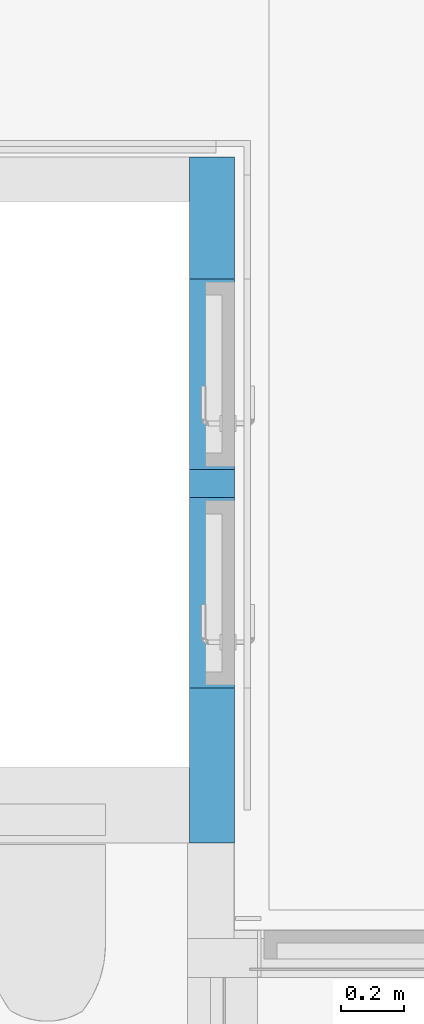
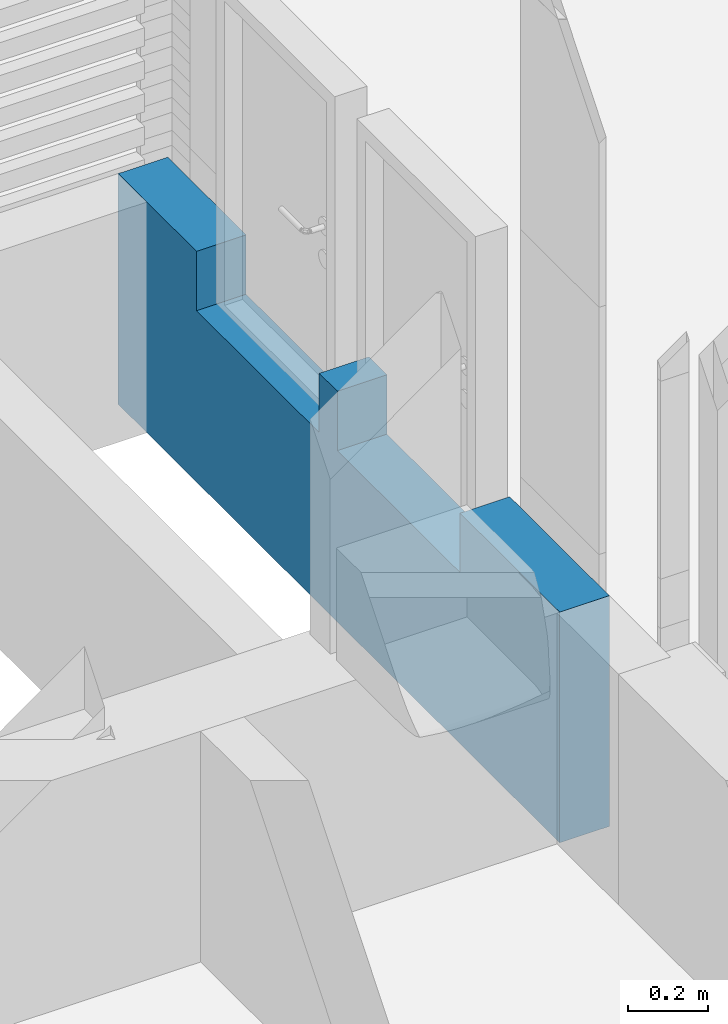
# One storey, part 16 of 26: 1 wall, 2 openings.
"""IFC2X3 building model written with IfcOpenShell, lengths in millimetres."""

from ifc_helpers import new_model, entity, si_unit, converted_unit, derived_unit, direction, frame, frame_2d, origin, origin_with_axes, place, context, subcontext, project, spatial, rectangle, extrude, clip, halfspace, material, layer, layer_set, layer_usage, type_object, element, save


model = new_model("IFC2X3")

# Units and contexts
model_context = context("Model", 3, precision=0.01, world=frame((0.0, 4.29681676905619e-09, 0.0)), true_north=direction((4.01073788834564e-13, 1.0)))
plan_context = context("Plan", 3, precision=0.01, world=frame((0.0, 4.29681676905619e-09, 0.0)), true_north=direction((4.01073788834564e-13, 1.0)))
body_context = subcontext(model_context, "Body", "Model", "MODEL_VIEW")
ifc_project = project(units=[converted_unit("PLANEANGLEUNIT", "DEGREE", entity("IfcPositiveLengthMeasure", 0.0174532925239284), si_unit("PLANEANGLEUNIT", "RADIAN"), dimensions=[0, 0, 0, 0, 0, 0, 0]), si_unit("AREAUNIT", "SQUARE_METRE"), si_unit("LENGTHUNIT", "METRE", prefix="MILLI"), si_unit("MASSUNIT", "GRAM", prefix="KILO"), si_unit("POWERUNIT", "WATT"), si_unit("PRESSUREUNIT", "PASCAL", prefix="KILO"), si_unit("FORCEUNIT", "NEWTON", prefix="KILO"), si_unit("ELECTRICVOLTAGEUNIT", "VOLT"), si_unit("ELECTRICCURRENTUNIT", "AMPERE"), si_unit("THERMODYNAMICTEMPERATUREUNIT", "DEGREE_CELSIUS"), si_unit("TIMEUNIT", "SECOND"), si_unit("VOLUMEUNIT", "CUBIC_METRE"), derived_unit("LINEARVELOCITYUNIT", [(si_unit("LENGTHUNIT", "METRE"), 1), (si_unit("TIMEUNIT", "SECOND"), -1)]), derived_unit("VOLUMETRICFLOWRATEUNIT", [(si_unit("VOLUMEUNIT", "CUBIC_METRE"), 1), (si_unit("TIMEUNIT", "SECOND"), -1)]), derived_unit("THERMALTRANSMITTANCEUNIT", [(si_unit("POWERUNIT", "WATT"), 1), (si_unit("THERMODYNAMICTEMPERATUREUNIT", "KELVIN"), -1), (si_unit("AREAUNIT", "SQUARE_METRE"), -1)]), derived_unit("SOUNDPRESSUREUNIT", [(si_unit("PRESSUREUNIT", "PASCAL"), 1)])], contexts=[model_context, plan_context])

# Site, building, storey
site_placement = place(None, origin_with_axes())
site = spatial("IfcSite", under=ifc_project, at=site_placement, Name="ENGM", CompositionType="ELEMENT")
building_placement = place(site_placement, origin_with_axes())
building = spatial("IfcBuilding", under=site, at=building_placement, Name="TG", CompositionType="ELEMENT")
storey_placement = place(building_placement, frame((0.0, 0.0, 210200.0), z_axis=(0.0, 0.0, 1.0), x_axis=(1.0, 0.0, 0.0)))
storey = spatial("IfcBuildingStorey", under=building, at=storey_placement, Name="Nivå F - 0,7 m", CompositionType="ELEMENT", Elevation=210200.0)

# Wall, openings
ifc_material_1 = material(Name="T2_Gips Protect F")
ifc_layer_1 = layer(ifc_material_1, 15.0)
ifc_material_2 = material(Name="T2_Gips Standard")
ifc_layer_2 = layer(ifc_material_2, 12.5)
ifc_material_3 = material(Name="_NSW Stålstender, uisolert")
ifc_layer_3 = layer(ifc_material_3, 100.0)
ifc_layer_4 = layer(ifc_material_1, 15.0)
ifc_layer_set = layer_set([ifc_layer_1, ifc_layer_2, ifc_layer_3, ifc_layer_4], Name="Basic Wall:A241 - FSVF-100")
ifc_layer_usage = layer_usage(ifc_layer_set, "AXIS2", "POSITIVE", -71.25)
wall_type = type_object("IfcWallType", Name="Basic Wall:A241 - FSVF-100", PredefinedType="STANDARD", material=ifc_layer_set)
wall_placement = place(storey_placement, frame((329072.5, 462479.600000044, 0.0), z_axis=(0.0, 0.0, 1.0), x_axis=(0.0, 1.0, 0.0)))
wall = element("IfcWallStandardCase", 1, at=wall_placement, inside=storey, type_object=wall_type, material=ifc_layer_usage, Name="Basic Wall:A241 - FSVF-100", ObjectType="Basic Wall:A241 - FSVF-100", context=body_context, shape_type="Clipping", body=[
    clip(extrude(rectangle(XDim=2194.14999999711, YDim=142.50000000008, at=frame_2d((1097.07499999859, -2.32063257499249e-11), x_axis=(-1.0, 0.0))), origin(), (0.0, 0.0, 1.0), 700.000000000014), halfspace(origin(), True)),
])
opening_1_placement = place(wall_placement, frame((1804.99999995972, 71.2500000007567, 520.0), z_axis=(0.0, 0.0, 1.0), x_axis=(1.0, 0.0, 0.0)))
element("IfcOpeningElement", 2, at=opening_1_placement, cuts=wall, Name="A20 - Slagdør - Enkel:A243 - DI_SSO - 0590 x 0985 mm:1", ObjectType="Opening", context=body_context, shape_type="SweptSolid", body=[
    extrude(rectangle(XDim=1004.99999999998, YDim=610.000000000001, at=frame_2d((502.499999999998, 305.000000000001), x_axis=(1.0, 0.0))), frame((0.0, 0.0, 0.0), z_axis=(0.0, -1.0, 0.0), x_axis=(0.0, 0.0, 1.0)), (0.0, 0.0, 1.0), 142.5),
])
opening_2_placement = place(wall_placement, frame((1104.99999996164, 71.2500000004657, 520.0), z_axis=(0.0, 0.0, 1.0), x_axis=(1.0, 0.0, 0.0)))
element("IfcOpeningElement", 3, at=opening_2_placement, cuts=wall, Name="A20 - Slagdør - Enkel:A243 - DI_SSO - 0590 x 0985 mm:1", ObjectType="Opening", context=body_context, shape_type="SweptSolid", body=[
    extrude(rectangle(XDim=1004.99999999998, YDim=610.000000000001, at=frame_2d((502.499999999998, 305.000000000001), x_axis=(1.0, 0.0))), frame((0.0, 0.0, 0.0), z_axis=(0.0, -1.0, 0.0), x_axis=(0.0, 0.0, 1.0)), (0.0, 0.0, 1.0), 142.5),
])

save(model, "model.ifc")
